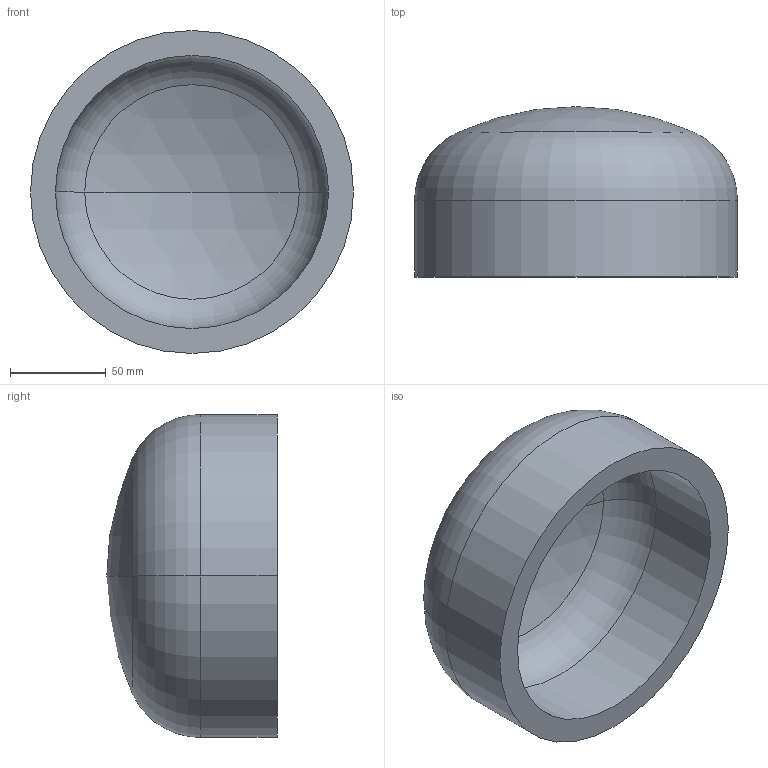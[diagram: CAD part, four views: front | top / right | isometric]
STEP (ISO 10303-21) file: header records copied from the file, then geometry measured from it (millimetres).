
FILE_DESCRIPTION (( 'STEP AP203' ), '1' );
FILE_NAME ('DIN 28013 Korbbogenform_-_Boden DIN 28013 - 168,3 x 40 - I - s=13.step', '2016-07-01T07:41:35', ( '' ), ( '' ), 'SwSTEP 2.0', 'SolidWorks 2013', '' );
FILE_SCHEMA (( 'CONFIG_CONTROL_DESIGN' ));
Length unit declared in the file: millimetre
Products named in the file (1): DIN 28013 Korbbogenform_-_Boden DIN 28013 - 168,3 x 40 - I - s=13
Bounding box: 168.3 x 88.79 x 168.3 mm (x, y, z)
Volume: 617362.2 mm3; surface area: 101675.3 mm2
Topology: 1 solids, 1 shells, 13 faces, 24 edges, 14 vertices
Faces by surface type: torus 4, cylinder 4, sphere 4, plane 1
Entity records: 407 total; most frequent: DIRECTION 72, CARTESIAN_POINT 52, ORIENTED_EDGE 48, AXIS2_PLACEMENT_3D 34, EDGE_CURVE 24, CIRCLE 20, VERTEX_POINT 14, EDGE_LOOP 14
